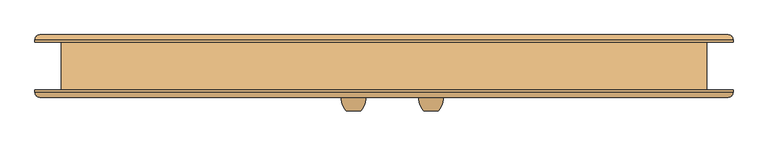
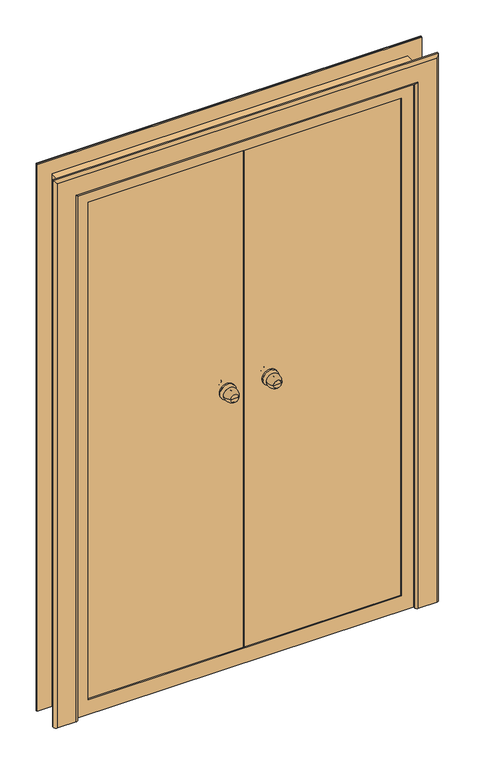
"""IFC4 building model written with IfcOpenShell, lengths in millimetres: door geometry, Наружная дверь 2-Навесная - Один проем наружу с порогом - 31173-2003 : ДСН ДКН М2 2100-1300 ГОСТ 31173-2003."""

from ifc_helpers import new_model, si_unit, point, frame, origin, place, context, project, spatial, polyline, circle_curve, ellipse_curve, trimmed, outline, extrude, faceted_brep, source, transform, mapped, element, save
from ifc_brep_helpers import plane_surface, cylinder_surface, revolved_surface, advanced_brep


def door_2465b851(model_context):
    return source(origin(), model_context, "Body", "SolidModel", [
        advanced_brep(
        [(113.0, -93.0, 1100.0), (83.0, -93.0, 1100.0), (98.0, -93.0, 1100.0), (123.0, -63.0, 1100.0), (73.0, -63.0, 1100.0), (116.0, -63.0, 1100.0), (80.0, -63.0, 1100.0), (108.0, -55.0, 1100.0), (88.0, -55.0, 1100.0), (108.0, -49.0, 1100.0), (88.0, -49.0, 1100.0), (68.0, -49.0, 1100.0), (128.0, -49.0, 1100.0), (68.0, -43.0, 1100.0), (128.0, -43.0, 1100.0)],
        [
            (0, 1, circle_curve(frame((98.0, -93.0, 1100.0), z_axis=(0.0, -1.0, 0.0), x_axis=(-1.0, 0.0, 0.0)), 15.0)),
            (1, 2),
            (2, 0),
            (1, 0, circle_curve(frame((98.0, -93.0, 1100.0), z_axis=(0.0, -1.0, 0.0), x_axis=(-1.0, 0.0, 0.0)), 15.0)),
            (0, 3, circle_curve(frame((88.3773735, -68.1257912, 1100.0), z_axis=(0.0, 0.0, 1.0), x_axis=(-1.0, 0.0, 0.0)), 35.0)),
            (3, 4, circle_curve(frame((98.0, -63.0, 1100.0), z_axis=(0.0, -1.0, 0.0), x_axis=(-1.0, 0.0, 0.0)), 25.0)),
            (4, 1, circle_curve(frame((107.6226265, -68.1257912, 1100.0), z_axis=(0.0, 0.0, 1.0), x_axis=(1.0, 0.0, 0.0)), 35.0)),
            (4, 3, circle_curve(frame((98.0, -63.0, 1100.0), z_axis=(0.0, -1.0, 0.0), x_axis=(-1.0, 0.0, 0.0)), 25.0)),
            (3, 5),
            (5, 6, circle_curve(frame((98.0, -63.0, 1100.0), z_axis=(0.0, -1.0, 0.0), x_axis=(-1.0, 0.0, 0.0)), 18.0)),
            (6, 4),
            (6, 5, circle_curve(frame((98.0, -63.0, 1100.0), z_axis=(0.0, -1.0, 0.0), x_axis=(-1.0, 0.0, 0.0)), 18.0)),
            (5, 7, circle_curve(frame((116.0, -55.0, 1100.0), z_axis=(0.0, 0.0, -1.0), x_axis=(-1.0, 0.0, 0.0)), 8.0)),
            (7, 8, circle_curve(frame((98.0, -55.0, 1100.0), z_axis=(0.0, -1.0, 0.0), x_axis=(-1.0, 0.0, 0.0)), 10.0)),
            (8, 6, circle_curve(frame((80.0, -55.0, 1100.0), z_axis=(0.0, 0.0, -1.0), x_axis=(1.0, 0.0, 0.0)), 8.0)),
            (8, 7, circle_curve(frame((98.0, -55.0, 1100.0), z_axis=(0.0, -1.0, 0.0), x_axis=(-1.0, 0.0, 0.0)), 10.0)),
            (7, 9),
            (9, 10, circle_curve(frame((98.0, -49.0, 1100.0), z_axis=(0.0, -1.0, 0.0), x_axis=(-1.0, 0.0, 0.0)), 10.0)),
            (10, 8),
            (10, 9, circle_curve(frame((98.0, -49.0, 1100.0), z_axis=(0.0, -1.0, 0.0), x_axis=(-1.0, 0.0, 0.0)), 10.0)),
            (11, 12, circle_curve(frame((98.0, -49.0, 1100.0), z_axis=(0.0, -1.0, 0.0), x_axis=(1.0, 0.0, 0.0)), 30.0)),
            (12, 11, circle_curve(frame((98.0, -49.0, 1100.0), z_axis=(0.0, -1.0, 0.0), x_axis=(1.0, 0.0, 0.0)), 30.0)),
            (13, 14, circle_curve(frame((98.0, -43.0, 1100.0), z_axis=(0.0, 1.0, 0.0), x_axis=(1.0, 0.0, 0.0)), 30.0)),
            (14, 13, circle_curve(frame((98.0, -43.0, 1100.0), z_axis=(0.0, 1.0, 0.0), x_axis=(1.0, 0.0, 0.0)), 30.0)),
            (11, 13),
            (14, 12),
        ],
        [
            plane_surface(frame((98.0, -93.0, 1100.0), z_axis=(0.0, -1.0, 0.0), x_axis=(-1.0, 0.0, 0.0))),
            revolved_surface(trimmed(ellipse_curve(frame((107.6226265, -68.1257912, 1100.0), z_axis=(0.0, 0.0, -1.0), x_axis=(1.0, 0.0, 0.0)), 35.0, 35.0), [point((83.0, -93.0, 1100.0))], [point((73.0, -63.0, 1100.0))], True, "CARTESIAN"), (98.0, -123.0, 1100.0), (0.0, 1.0, 0.0)),
            plane_surface(frame((98.0, -63.0, 1100.0), z_axis=(0.0, 1.0, 0.0), x_axis=(-1.0, 0.0, 0.0))),
            revolved_surface(trimmed(ellipse_curve(frame((80.0, -55.0, 1100.0), z_axis=(0.0, 0.0, 1.0), x_axis=(1.0, 0.0, 0.0)), 8.0, 8.0), [point((80.0, -63.0, 1100.0))], [point((88.0, -55.0, 1100.0))], True, "CARTESIAN"), (98.0, -123.0, 1100.0), (0.0, 1.0, 0.0)),
            cylinder_surface(frame((98.0, -123.0, 1100.0), z_axis=(0.0, 1.0, 0.0), x_axis=(-1.0, 0.0, 0.0)), 10.0),
            plane_surface(frame((128.0, -49.0, 1100.0), z_axis=(0.0, -1.0, 0.0), x_axis=(0.0, 0.0, 1.0))),
            plane_surface(frame((128.0, -43.0, 1100.0), z_axis=(0.0, 1.0, 0.0), x_axis=(0.0, 0.0, -1.0))),
            cylinder_surface(frame((98.0, -43.0, 1100.0), z_axis=(0.0, -1.0, 0.0), x_axis=(1.0, 0.0, 0.0)), 30.0),
        ],
        [
            (0, [[1, 2, 3]]),
            (0, [[-2, 4, -3]]),
            (1, [[-1, 5, 6, 7]]),
            (1, [[-4, -7, 8, -5]]),
            (2, [[-6, 9, 10, 11]]),
            (2, [[-8, -11, 12, -9]]),
            (3, [[-10, 13, 14, 15]]),
            (3, [[-12, -15, 16, -13]]),
            (4, [[-14, 17, 18, 19]]),
            (4, [[-16, -19, 20, -17]]),
            (5, [[21, 22], [-18, -20]]),
            (6, [[23, 24]]),
            (7, [[-21, 25, -24, 26]]),
            (7, [[-22, -26, -23, -25]]),
        ],
    ),
        advanced_brep(
        [(83.0, 47.0, 1100.0), (113.0, 47.0, 1100.0), (98.0, 47.0, 1100.0), (73.0, 17.0, 1100.0), (123.0, 17.0, 1100.0), (80.0, 17.0, 1100.0), (116.0, 17.0, 1100.0), (88.0, 9.0, 1100.0), (108.0, 9.0, 1100.0), (88.0, 3.0, 1100.0), (108.0, 3.0, 1100.0), (128.0, 3.0, 1100.0), (68.0, 3.0, 1100.0), (128.0, -3.0, 1100.0), (68.0, -3.0, 1100.0)],
        [
            (0, 1, circle_curve(frame((98.0, 47.0, 1100.0), z_axis=(0.0, 1.0, 0.0), x_axis=(1.0, 0.0, 0.0)), 15.0)),
            (1, 2),
            (2, 0),
            (1, 0, circle_curve(frame((98.0, 47.0, 1100.0), z_axis=(0.0, 1.0, 0.0), x_axis=(1.0, 0.0, 0.0)), 15.0)),
            (0, 3, circle_curve(frame((107.6226265, 22.1257912, 1100.0), z_axis=(0.0, 0.0, 1.0), x_axis=(1.0, 0.0, 0.0)), 35.0)),
            (3, 4, circle_curve(frame((98.0, 17.0, 1100.0), z_axis=(0.0, 1.0, 0.0), x_axis=(1.0, 0.0, 0.0)), 25.0)),
            (4, 1, circle_curve(frame((88.3773735, 22.1257912, 1100.0), z_axis=(0.0, 0.0, 1.0), x_axis=(-1.0, 0.0, 0.0)), 35.0)),
            (4, 3, circle_curve(frame((98.0, 17.0, 1100.0), z_axis=(0.0, 1.0, 0.0), x_axis=(1.0, 0.0, 0.0)), 25.0)),
            (3, 5),
            (5, 6, circle_curve(frame((98.0, 17.0, 1100.0), z_axis=(0.0, 1.0, 0.0), x_axis=(1.0, 0.0, 0.0)), 18.0)),
            (6, 4),
            (6, 5, circle_curve(frame((98.0, 17.0, 1100.0), z_axis=(0.0, 1.0, 0.0), x_axis=(1.0, 0.0, 0.0)), 18.0)),
            (5, 7, circle_curve(frame((80.0, 9.0, 1100.0), z_axis=(0.0, 0.0, -1.0), x_axis=(1.0, 0.0, 0.0)), 8.0)),
            (7, 8, circle_curve(frame((98.0, 9.0, 1100.0), z_axis=(0.0, 1.0, 0.0), x_axis=(1.0, 0.0, 0.0)), 10.0)),
            (8, 6, circle_curve(frame((116.0, 9.0, 1100.0), z_axis=(0.0, 0.0, -1.0), x_axis=(-1.0, 0.0, 0.0)), 8.0)),
            (8, 7, circle_curve(frame((98.0, 9.0, 1100.0), z_axis=(0.0, 1.0, 0.0), x_axis=(1.0, 0.0, 0.0)), 10.0)),
            (7, 9),
            (9, 10, circle_curve(frame((98.0, 3.0, 1100.0), z_axis=(0.0, 1.0, 0.0), x_axis=(1.0, 0.0, 0.0)), 10.0)),
            (10, 8),
            (10, 9, circle_curve(frame((98.0, 3.0, 1100.0), z_axis=(0.0, 1.0, 0.0), x_axis=(1.0, 0.0, 0.0)), 10.0)),
            (11, 12, circle_curve(frame((98.0, 3.0, 1100.0), z_axis=(0.0, 1.0, 0.0), x_axis=(-1.0, 0.0, 0.0)), 30.0)),
            (12, 11, circle_curve(frame((98.0, 3.0, 1100.0), z_axis=(0.0, 1.0, 0.0), x_axis=(-1.0, 0.0, 0.0)), 30.0)),
            (13, 14, circle_curve(frame((98.0, -3.0, 1100.0), z_axis=(0.0, -1.0, 0.0), x_axis=(-1.0, 0.0, 0.0)), 30.0)),
            (14, 13, circle_curve(frame((98.0, -3.0, 1100.0), z_axis=(0.0, -1.0, 0.0), x_axis=(-1.0, 0.0, 0.0)), 30.0)),
            (11, 13),
            (14, 12),
        ],
        [
            plane_surface(frame((98.0, 47.0, 1100.0), z_axis=(0.0, 1.0, 0.0), x_axis=(1.0, 0.0, 0.0))),
            revolved_surface(trimmed(ellipse_curve(frame((88.3773735, 22.1257912, 1100.0), z_axis=(0.0, 0.0, -1.0), x_axis=(-1.0, 0.0, 0.0)), 35.0, 35.0), [point((113.0, 47.0, 1100.0))], [point((123.0, 17.0, 1100.0))], True, "CARTESIAN"), (98.0, 77.0, 1100.0), (0.0, -1.0, 0.0)),
            plane_surface(frame((98.0, 17.0, 1100.0), z_axis=(0.0, -1.0, 0.0), x_axis=(1.0, 0.0, 0.0))),
            revolved_surface(trimmed(ellipse_curve(frame((116.0, 9.0, 1100.0), z_axis=(0.0, 0.0, 1.0), x_axis=(-1.0, 0.0, 0.0)), 8.0, 8.0), [point((116.0, 17.0, 1100.0))], [point((108.0, 9.0, 1100.0))], True, "CARTESIAN"), (98.0, 77.0, 1100.0), (0.0, -1.0, 0.0)),
            cylinder_surface(frame((98.0, 77.0, 1100.0), z_axis=(0.0, -1.0, 0.0), x_axis=(1.0, 0.0, 0.0)), 10.0),
            plane_surface(frame((68.0, 3.0, 1100.0), z_axis=(0.0, 1.0, 0.0), x_axis=(0.0, 0.0, 1.0))),
            plane_surface(frame((68.0, -3.0, 1100.0), z_axis=(0.0, -1.0, 0.0), x_axis=(0.0, 0.0, -1.0))),
            cylinder_surface(frame((98.0, -3.0, 1100.0), z_axis=(0.0, 1.0, 0.0), x_axis=(-1.0, 0.0, 0.0)), 30.0),
        ],
        [
            (0, [[1, 2, 3]]),
            (0, [[-2, 4, -3]]),
            (1, [[-1, 5, 6, 7]]),
            (1, [[-4, -7, 8, -5]]),
            (2, [[-6, 9, 10, 11]]),
            (2, [[-8, -11, 12, -9]]),
            (3, [[-10, 13, 14, 15]]),
            (3, [[-12, -15, 16, -13]]),
            (4, [[-14, 17, 18, 19]]),
            (4, [[-16, -19, 20, -17]]),
            (5, [[21, 22], [-18, -20]]),
            (6, [[23, 24]]),
            (7, [[-21, 25, -24, 26]]),
            (7, [[-22, -26, -23, -25]]),
        ],
    ),
        advanced_brep(
        [(-48.0, -93.0, 1100.0), (-78.0, -93.0, 1100.0), (-63.0, -93.0, 1100.0), (-38.0, -63.0, 1100.0), (-88.0, -63.0, 1100.0), (-45.0, -63.0, 1100.0), (-81.0, -63.0, 1100.0), (-53.0, -55.0, 1100.0), (-73.0, -55.0, 1100.0), (-53.0, -49.0, 1100.0), (-73.0, -49.0, 1100.0), (-93.0, -49.0, 1100.0), (-33.0, -49.0, 1100.0), (-93.0, -43.0, 1100.0), (-33.0, -43.0, 1100.0)],
        [
            (0, 1, circle_curve(frame((-63.0, -93.0, 1100.0), z_axis=(0.0, -1.0, 0.0), x_axis=(-1.0, 0.0, 0.0)), 15.0)),
            (1, 2),
            (2, 0),
            (1, 0, circle_curve(frame((-63.0, -93.0, 1100.0), z_axis=(0.0, -1.0, 0.0), x_axis=(-1.0, 0.0, 0.0)), 15.0)),
            (0, 3, circle_curve(frame((-72.6226265, -68.1257912, 1100.0), z_axis=(0.0, 0.0, 1.0), x_axis=(-1.0, 0.0, 0.0)), 35.0)),
            (3, 4, circle_curve(frame((-63.0, -63.0, 1100.0), z_axis=(0.0, -1.0, 0.0), x_axis=(-1.0, 0.0, 0.0)), 25.0)),
            (4, 1, circle_curve(frame((-53.3773735, -68.1257912, 1100.0), z_axis=(0.0, 0.0, 1.0), x_axis=(1.0, 0.0, 0.0)), 35.0)),
            (4, 3, circle_curve(frame((-63.0, -63.0, 1100.0), z_axis=(0.0, -1.0, 0.0), x_axis=(-1.0, 0.0, 0.0)), 25.0)),
            (3, 5),
            (5, 6, circle_curve(frame((-63.0, -63.0, 1100.0), z_axis=(0.0, -1.0, 0.0), x_axis=(-1.0, 0.0, 0.0)), 18.0)),
            (6, 4),
            (6, 5, circle_curve(frame((-63.0, -63.0, 1100.0), z_axis=(0.0, -1.0, 0.0), x_axis=(-1.0, 0.0, 0.0)), 18.0)),
            (5, 7, circle_curve(frame((-45.0, -55.0, 1100.0), z_axis=(0.0, 0.0, -1.0), x_axis=(-1.0, 0.0, 0.0)), 8.0)),
            (7, 8, circle_curve(frame((-63.0, -55.0, 1100.0), z_axis=(0.0, -1.0, 0.0), x_axis=(-1.0, 0.0, 0.0)), 10.0)),
            (8, 6, circle_curve(frame((-81.0, -55.0, 1100.0), z_axis=(0.0, 0.0, -1.0), x_axis=(1.0, 0.0, 0.0)), 8.0)),
            (8, 7, circle_curve(frame((-63.0, -55.0, 1100.0), z_axis=(0.0, -1.0, 0.0), x_axis=(-1.0, 0.0, 0.0)), 10.0)),
            (7, 9),
            (9, 10, circle_curve(frame((-63.0, -49.0, 1100.0), z_axis=(0.0, -1.0, 0.0), x_axis=(-1.0, 0.0, 0.0)), 10.0)),
            (10, 8),
            (10, 9, circle_curve(frame((-63.0, -49.0, 1100.0), z_axis=(0.0, -1.0, 0.0), x_axis=(-1.0, 0.0, 0.0)), 10.0)),
            (11, 12, circle_curve(frame((-63.0, -49.0, 1100.0), z_axis=(0.0, -1.0, 0.0), x_axis=(1.0, 0.0, 0.0)), 30.0)),
            (12, 11, circle_curve(frame((-63.0, -49.0, 1100.0), z_axis=(0.0, -1.0, 0.0), x_axis=(1.0, 0.0, 0.0)), 30.0)),
            (13, 14, circle_curve(frame((-63.0, -43.0, 1100.0), z_axis=(0.0, 1.0, 0.0), x_axis=(1.0, 0.0, 0.0)), 30.0)),
            (14, 13, circle_curve(frame((-63.0, -43.0, 1100.0), z_axis=(0.0, 1.0, 0.0), x_axis=(1.0, 0.0, 0.0)), 30.0)),
            (11, 13),
            (14, 12),
        ],
        [
            plane_surface(frame((-63.0, -93.0, 1100.0), z_axis=(0.0, -1.0, 0.0), x_axis=(-1.0, 0.0, 0.0))),
            revolved_surface(trimmed(ellipse_curve(frame((-53.3773735, -68.1257912, 1100.0), z_axis=(0.0, 0.0, -1.0), x_axis=(1.0, 0.0, 0.0)), 35.0, 35.0), [point((-78.0, -93.0, 1100.0))], [point((-88.0, -63.0, 1100.0))], True, "CARTESIAN"), (-63.0, -123.0, 1100.0), (0.0, 1.0, 0.0)),
            plane_surface(frame((-63.0, -63.0, 1100.0), z_axis=(0.0, 1.0, 0.0), x_axis=(-1.0, 0.0, 0.0))),
            revolved_surface(trimmed(ellipse_curve(frame((-81.0, -55.0, 1100.0), z_axis=(0.0, 0.0, 1.0), x_axis=(1.0, 0.0, 0.0)), 8.0, 8.0), [point((-81.0, -63.0, 1100.0))], [point((-73.0, -55.0, 1100.0))], True, "CARTESIAN"), (-63.0, -123.0, 1100.0), (0.0, 1.0, 0.0)),
            cylinder_surface(frame((-63.0, -123.0, 1100.0), z_axis=(0.0, 1.0, 0.0), x_axis=(-1.0, 0.0, 0.0)), 10.0),
            plane_surface(frame((-33.0, -49.0, 1100.0), z_axis=(0.0, -1.0, 0.0), x_axis=(0.0, 0.0, 1.0))),
            plane_surface(frame((-33.0, -43.0, 1100.0), z_axis=(0.0, 1.0, 0.0), x_axis=(0.0, 0.0, -1.0))),
            cylinder_surface(frame((-63.0, -43.0, 1100.0), z_axis=(0.0, -1.0, 0.0), x_axis=(1.0, 0.0, 0.0)), 30.0),
        ],
        [
            (0, [[1, 2, 3]]),
            (0, [[-2, 4, -3]]),
            (1, [[-1, 5, 6, 7]]),
            (1, [[-4, -7, 8, -5]]),
            (2, [[-6, 9, 10, 11]]),
            (2, [[-8, -11, 12, -9]]),
            (3, [[-10, 13, 14, 15]]),
            (3, [[-12, -15, 16, -13]]),
            (4, [[-14, 17, 18, 19]]),
            (4, [[-16, -19, 20, -17]]),
            (5, [[21, 22], [-18, -20]]),
            (6, [[23, 24]]),
            (7, [[-21, 25, -24, 26]]),
            (7, [[-22, -26, -23, -25]]),
        ],
    ),
        advanced_brep(
        [(-78.0, 47.0, 1100.0), (-48.0, 47.0, 1100.0), (-63.0, 47.0, 1100.0), (-88.0, 17.0, 1100.0), (-38.0, 17.0, 1100.0), (-81.0, 17.0, 1100.0), (-45.0, 17.0, 1100.0), (-73.0, 9.0, 1100.0), (-53.0, 9.0, 1100.0), (-73.0, 3.0, 1100.0), (-53.0, 3.0, 1100.0), (-33.0, 3.0, 1100.0), (-93.0, 3.0, 1100.0), (-33.0, -3.0, 1100.0), (-93.0, -3.0, 1100.0)],
        [
            (0, 1, circle_curve(frame((-63.0, 47.0, 1100.0), z_axis=(0.0, 1.0, 0.0), x_axis=(1.0, 0.0, 0.0)), 15.0)),
            (1, 2),
            (2, 0),
            (1, 0, circle_curve(frame((-63.0, 47.0, 1100.0), z_axis=(0.0, 1.0, 0.0), x_axis=(1.0, 0.0, 0.0)), 15.0)),
            (0, 3, circle_curve(frame((-53.3773735, 22.1257912, 1100.0), z_axis=(0.0, 0.0, 1.0), x_axis=(1.0, 0.0, 0.0)), 35.0)),
            (3, 4, circle_curve(frame((-63.0, 17.0, 1100.0), z_axis=(0.0, 1.0, 0.0), x_axis=(1.0, 0.0, 0.0)), 25.0)),
            (4, 1, circle_curve(frame((-72.6226265, 22.1257912, 1100.0), z_axis=(0.0, 0.0, 1.0), x_axis=(-1.0, 0.0, 0.0)), 35.0)),
            (4, 3, circle_curve(frame((-63.0, 17.0, 1100.0), z_axis=(0.0, 1.0, 0.0), x_axis=(1.0, 0.0, 0.0)), 25.0)),
            (3, 5),
            (5, 6, circle_curve(frame((-63.0, 17.0, 1100.0), z_axis=(0.0, 1.0, 0.0), x_axis=(1.0, 0.0, 0.0)), 18.0)),
            (6, 4),
            (6, 5, circle_curve(frame((-63.0, 17.0, 1100.0), z_axis=(0.0, 1.0, 0.0), x_axis=(1.0, 0.0, 0.0)), 18.0)),
            (5, 7, circle_curve(frame((-81.0, 9.0, 1100.0), z_axis=(0.0, 0.0, -1.0), x_axis=(1.0, 0.0, 0.0)), 8.0)),
            (7, 8, circle_curve(frame((-63.0, 9.0, 1100.0), z_axis=(0.0, 1.0, 0.0), x_axis=(1.0, 0.0, 0.0)), 10.0)),
            (8, 6, circle_curve(frame((-45.0, 9.0, 1100.0), z_axis=(0.0, 0.0, -1.0), x_axis=(-1.0, 0.0, 0.0)), 8.0)),
            (8, 7, circle_curve(frame((-63.0, 9.0, 1100.0), z_axis=(0.0, 1.0, 0.0), x_axis=(1.0, 0.0, 0.0)), 10.0)),
            (7, 9),
            (9, 10, circle_curve(frame((-63.0, 3.0, 1100.0), z_axis=(0.0, 1.0, 0.0), x_axis=(1.0, 0.0, 0.0)), 10.0)),
            (10, 8),
            (10, 9, circle_curve(frame((-63.0, 3.0, 1100.0), z_axis=(0.0, 1.0, 0.0), x_axis=(1.0, 0.0, 0.0)), 10.0)),
            (11, 12, circle_curve(frame((-63.0, 3.0, 1100.0), z_axis=(0.0, 1.0, 0.0), x_axis=(-1.0, 0.0, 0.0)), 30.0)),
            (12, 11, circle_curve(frame((-63.0, 3.0, 1100.0), z_axis=(0.0, 1.0, 0.0), x_axis=(-1.0, 0.0, 0.0)), 30.0)),
            (13, 14, circle_curve(frame((-63.0, -3.0, 1100.0), z_axis=(0.0, -1.0, 0.0), x_axis=(-1.0, 0.0, 0.0)), 30.0)),
            (14, 13, circle_curve(frame((-63.0, -3.0, 1100.0), z_axis=(0.0, -1.0, 0.0), x_axis=(-1.0, 0.0, 0.0)), 30.0)),
            (11, 13),
            (14, 12),
        ],
        [
            plane_surface(frame((-63.0, 47.0, 1100.0), z_axis=(0.0, 1.0, 0.0), x_axis=(1.0, 0.0, 0.0))),
            revolved_surface(trimmed(ellipse_curve(frame((-72.6226265, 22.1257912, 1100.0), z_axis=(0.0, 0.0, -1.0), x_axis=(-1.0, 0.0, 0.0)), 35.0, 35.0), [point((-48.0, 47.0, 1100.0))], [point((-38.0, 17.0, 1100.0))], True, "CARTESIAN"), (-63.0, 77.0, 1100.0), (0.0, -1.0, 0.0)),
            plane_surface(frame((-63.0, 17.0, 1100.0), z_axis=(0.0, -1.0, 0.0), x_axis=(1.0, 0.0, 0.0))),
            revolved_surface(trimmed(ellipse_curve(frame((-45.0, 9.0, 1100.0), z_axis=(0.0, 0.0, 1.0), x_axis=(-1.0, 0.0, 0.0)), 8.0, 8.0), [point((-45.0, 17.0, 1100.0))], [point((-53.0, 9.0, 1100.0))], True, "CARTESIAN"), (-63.0, 77.0, 1100.0), (0.0, -1.0, 0.0)),
            cylinder_surface(frame((-63.0, 77.0, 1100.0), z_axis=(0.0, -1.0, 0.0), x_axis=(1.0, 0.0, 0.0)), 10.0),
            plane_surface(frame((-93.0, 3.0, 1100.0), z_axis=(0.0, 1.0, 0.0), x_axis=(0.0, 0.0, 1.0))),
            plane_surface(frame((-93.0, -3.0, 1100.0), z_axis=(0.0, -1.0, 0.0), x_axis=(0.0, 0.0, -1.0))),
            cylinder_surface(frame((-63.0, -3.0, 1100.0), z_axis=(0.0, 1.0, 0.0), x_axis=(-1.0, 0.0, 0.0)), 30.0),
        ],
        [
            (0, [[1, 2, 3]]),
            (0, [[-2, 4, -3]]),
            (1, [[-1, 5, 6, 7]]),
            (1, [[-4, -7, 8, -5]]),
            (2, [[-6, 9, 10, 11]]),
            (2, [[-8, -11, 12, -9]]),
            (3, [[-10, 13, 14, 15]]),
            (3, [[-12, -15, 16, -13]]),
            (4, [[-14, 17, 18, 19]]),
            (4, [[-16, -19, 20, -17]]),
            (5, [[21, 22], [-18, -20]]),
            (6, [[23, 24]]),
            (7, [[-21, 25, -24, 26]]),
            (7, [[-22, -26, -23, -25]]),
        ],
    ),
        faceted_brep([(38.0, -3.0, 25.0), (625.0, -3.0, 25.0), (625.0, -8.0, 25.0), (38.0, -8.0, 25.0), (38.0, -3.0, 2075.0), (625.0, -3.0, 2075.0), (625.0, -8.0, 2075.0), (38.0, -8.0, 2075.0), (38.0, -8.0, 2055.0), (605.0, -8.0, 2055.0), (605.0, -8.0, 45.0), (38.0, -8.0, 45.0), (38.0, -24.0, 45.0), (38.0, -24.0, 2055.0), (605.0, -43.0, 2055.0), (605.0, -43.0, 45.0), (3.0, -43.0, 45.0), (3.0, -24.0, 45.0), (3.0, -43.0, 2055.0), (3.0, -24.0, 2055.0)], [[[0, 1, 2, 3]], [[4, 5, 1, 0]], [[5, 6, 2, 1]], [[6, 7, 8, 9, 10, 11, 3, 2]], [[4, 0, 3, 11, 12, 13, 8, 7]], [[9, 14, 15, 10]], [[11, 10, 15, 16, 17, 12]], [[14, 18, 16, 15]], [[18, 19, 17, 16]], [[19, 13, 12, 17]], [[9, 8, 13, 19, 18, 14]], [[6, 5, 4, 7]]]),
        faceted_brep([(32.0, -8.0, 25.0), (-625.0, -8.0, 25.0), (-625.0, -3.0, 25.0), (32.0, -3.0, 25.0), (32.0, -8.0, 45.0), (-605.0, -8.0, 45.0), (-605.0, -8.0, 2055.0), (32.0, -8.0, 2055.0), (32.0, -8.0, 2075.0), (-625.0, -8.0, 2075.0), (-625.0, -3.0, 2075.0), (32.0, -3.0, 2075.0), (32.0, -18.0, 2055.0), (32.0, -18.0, 45.0), (-3.0, -18.0, 45.0), (-3.0, -43.0, 45.0), (-605.0, -43.0, 45.0), (-605.0, -43.0, 2055.0), (-3.0, -43.0, 2055.0), (-3.0, -18.0, 2055.0)], [[[0, 1, 2, 3]], [[0, 4, 5, 6, 7, 8, 9, 1]], [[1, 9, 10, 2]], [[10, 11, 3, 2]], [[3, 11, 8, 7, 12, 13, 4, 0]], [[5, 4, 13, 14, 15, 16]], [[17, 6, 5, 16]], [[18, 17, 16, 15]], [[19, 18, 15, 14]], [[12, 19, 14, 13]], [[11, 10, 9, 8]], [[7, 6, 17, 18, 19, 12]]]),
        extrude(outline(polyline([(0.0, 635.0), (0.0, 650.0), (2100.0, 650.0), (2100.0, -650.0), (0.0, -650.0), (0.0, -635.0), (2085.0, -635.0), (2085.0, 635.0), (0.0, 635.0)])), frame((0.0, -10.0, 0.0), z_axis=(0.0, 1.0, 0.0), x_axis=(0.0, 0.0, 1.0)), (0.0, 0.0, 1.0), 60.0),
        faceted_brep([(650.0, -10.0, 0.0), (650.0, -50.0, 0.0), (-650.0, -50.0, 0.0), (-650.0, -10.0, 0.0), (-650.0, -50.0, 2100.0), (-650.0, -10.0, 2100.0), (650.0, -50.0, 2100.0), (-590.0, -50.0, 2040.0), (590.0, -50.0, 2040.0), (590.0, -50.0, 60.0), (-590.0, -50.0, 60.0), (650.0, -10.0, 2100.0), (-610.0, -10.0, 40.0), (610.0, -10.0, 40.0), (610.0, -10.0, 2060.0), (-610.0, -10.0, 2060.0), (610.0, -45.0, 40.0), (-610.0, -45.0, 40.0), (-610.0, -45.0, 2060.0), (610.0, -45.0, 2060.0), (-590.0, -45.0, 60.0), (590.0, -45.0, 60.0), (590.0, -45.0, 2040.0), (-590.0, -45.0, 2040.0)], [[[0, 1, 2, 3]], [[3, 2, 4, 5]], [[2, 1, 6, 4], [7, 8, 9, 10]], [[5, 11, 0, 3], [12, 13, 14, 15]], [[16, 13, 12, 17]], [[17, 12, 15, 18]], [[18, 19, 16, 17], [20, 21, 22, 23]], [[9, 21, 20, 10]], [[10, 20, 23, 7]], [[11, 6, 1, 0]], [[19, 14, 13, 16]], [[8, 22, 21, 9]], [[5, 4, 6, 11]], [[18, 15, 14, 19]], [[7, 23, 22, 8]]]),
        advanced_brep(
        [(-725.0, -50.0, 0.0), (-635.0, -50.0, 0.0), (-635.0, -55.0, 0.0), (-645.0, -65.0, 0.0), (-715.0, -65.0, 0.0), (-725.0, -55.0, 0.0), (-725.0, -50.0, 2175.0), (725.0, -50.0, 2175.0), (725.0, -50.0, 0.0), (635.0, -50.0, 0.0), (635.0, -50.0, 2085.0), (-635.0, -50.0, 2085.0), (-635.0, -55.0, 2085.0), (-645.0, -65.0, 2095.0), (645.0, -65.0, 2095.0), (645.0, -65.0, 0.0), (715.0, -65.0, 0.0), (715.0, -65.0, 2165.0), (-715.0, -65.0, 2165.0), (-725.0, -55.0, 2175.0), (725.0, -55.0, 2175.0), (725.0, -55.0, 0.0), (635.0, -55.0, 0.0), (635.0, -55.0, 2085.0)],
        [
            (0, 1),
            (1, 2),
            (2, 3, circle_curve(frame((-645.0, -55.0, 0.0), z_axis=(0.0, 0.0, -1.0), x_axis=(-1.0, 0.0, 0.0)), 10.0)),
            (3, 4),
            (4, 5, circle_curve(frame((-715.0, -55.0, 0.0), z_axis=(0.0, 0.0, -1.0), x_axis=(-1.0, 0.0, 0.0)), 10.0)),
            (5, 0),
            (0, 6),
            (6, 7),
            (7, 8),
            (8, 9),
            (9, 10),
            (10, 11),
            (11, 1),
            (11, 12),
            (12, 2),
            (12, 13, ellipse_curve(frame((-645.0, -55.0, 2095.0), z_axis=(-0.7071067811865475, 0.0, -0.7071067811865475), x_axis=(0.7071067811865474, 0.0, -0.7071067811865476)), 14.1421356, 10.0)),
            (13, 3),
            (13, 14),
            (14, 15),
            (15, 16),
            (16, 17),
            (17, 18),
            (18, 4),
            (18, 19, ellipse_curve(frame((-715.0, -55.0, 2165.0), z_axis=(-0.7071067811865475, 0.0, -0.7071067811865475), x_axis=(0.7071067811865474, 0.0, -0.7071067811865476)), 14.1421356, 10.0)),
            (19, 5),
            (19, 6),
            (7, 20),
            (20, 21),
            (21, 8),
            (21, 16, circle_curve(frame((715.0, -55.0, 0.0), z_axis=(0.0, 0.0, -1.0), x_axis=(1.0, 0.0, 0.0)), 10.0)),
            (15, 22, circle_curve(frame((645.0, -55.0, 0.0), z_axis=(0.0, 0.0, -1.0), x_axis=(1.0, 0.0, 0.0)), 10.0)),
            (22, 9),
            (23, 10),
            (22, 23),
            (14, 23, ellipse_curve(frame((645.0, -55.0, 2095.0), z_axis=(0.7071067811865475, 0.0, -0.7071067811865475), x_axis=(0.7071067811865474, 0.0, 0.7071067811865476)), 14.1421356, 10.0)),
            (20, 17, ellipse_curve(frame((715.0, -55.0, 2165.0), z_axis=(0.7071067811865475, 0.0, -0.7071067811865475), x_axis=(0.7071067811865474, 0.0, 0.7071067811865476)), 14.1421356, 10.0)),
            (23, 12),
            (20, 19),
        ],
        [
            plane_surface(frame((-670.0, -50.0, 0.0), z_axis=(0.0, 0.0, -1.0), x_axis=(0.0, -1.0, 0.0))),
            plane_surface(frame((-725.0, -50.0, 0.0), z_axis=(0.0, 1.0, 0.0), x_axis=(0.0, 0.0, 1.0))),
            plane_surface(frame((-635.0, -50.0, 0.0), z_axis=(1.0, 0.0, 0.0), x_axis=(0.0, 0.0, 1.0))),
            cylinder_surface(frame((-645.0, -55.0, 0.0), z_axis=(0.0, 0.0, -1.0), x_axis=(-1.0, 0.0, 0.0)), 10.0),
            plane_surface(frame((-645.0, -65.0, 0.0), z_axis=(0.0, -1.0, 0.0), x_axis=(0.0, 0.0, 1.0))),
            cylinder_surface(frame((-715.0, -55.0, 0.0), z_axis=(0.0, 0.0, -1.0), x_axis=(-1.0, 0.0, 0.0)), 10.0),
            plane_surface(frame((-725.0, -55.0, 0.0), z_axis=(-1.0, 0.0, 0.0), x_axis=(0.0, 0.0, 1.0))),
            plane_surface(frame((725.0, -55.0, 2175.0), z_axis=(1.0, 0.0, 0.0), x_axis=(0.0, 0.0, -1.0))),
            plane_surface(frame((670.0, -50.0, 0.0), z_axis=(0.0, 0.0, -1.0), x_axis=(0.0, -1.0, 0.0))),
            plane_surface(frame((635.0, -50.0, 2085.0), z_axis=(-1.0, 0.0, 0.0), x_axis=(0.0, 0.0, -1.0))),
            cylinder_surface(frame((645.0, -55.0, 2120.0), z_axis=(0.0, 0.0, 1.0), x_axis=(1.0, 0.0, 0.0)), 10.0),
            cylinder_surface(frame((715.0, -55.0, 2120.0), z_axis=(0.0, 0.0, 1.0), x_axis=(1.0, 0.0, 0.0)), 10.0),
            plane_surface(frame((-635.0, -50.0, 2085.0), z_axis=(0.0, 0.0, -1.0), x_axis=(1.0, 0.0, 0.0))),
            cylinder_surface(frame((-670.0, -55.0, 2095.0), z_axis=(-1.0, 0.0, 0.0), x_axis=(0.0, 0.0, 1.0)), 10.0),
            cylinder_surface(frame((-670.0, -55.0, 2165.0), z_axis=(-1.0, 0.0, 0.0), x_axis=(0.0, 0.0, 1.0)), 10.0),
            plane_surface(frame((-725.0, -55.0, 2175.0), z_axis=(0.0, 0.0, 1.0), x_axis=(1.0, 0.0, 0.0))),
        ],
        [
            (0, [[1, 2, 3, 4, 5, 6]]),
            (1, [[-1, 7, 8, 9, 10, 11, 12, 13]]),
            (2, [[-2, -13, 14, 15]]),
            (3, [[-3, -15, 16, 17]]),
            (4, [[-4, -17, 18, 19, 20, 21, 22, 23]]),
            (5, [[-5, -23, 24, 25]]),
            (6, [[-6, -25, 26, -7]]),
            (7, [[27, 28, 29, -9]]),
            (8, [[-29, 30, -20, 31, 32, -10]]),
            (9, [[33, -11, -32, 34]]),
            (10, [[35, -34, -31, -19]]),
            (11, [[36, -21, -30, -28]]),
            (12, [[-14, -12, -33, 37]]),
            (13, [[-16, -37, -35, -18]]),
            (14, [[-24, -22, -36, 38]]),
            (15, [[-26, -38, -27, -8]]),
        ],
    ),
        advanced_brep(
        [(725.0, 50.0, 0.0), (635.0, 50.0, 0.0), (635.0, 55.0, 0.0), (645.0, 65.0, 0.0), (715.0, 65.0, 0.0), (725.0, 55.0, 0.0), (725.0, 50.0, 2175.0), (-725.0, 50.0, 2175.0), (-725.0, 50.0, 0.0), (-635.0, 50.0, 0.0), (-635.0, 50.0, 2085.0), (635.0, 50.0, 2085.0), (635.0, 55.0, 2085.0), (645.0, 65.0, 2095.0), (-645.0, 65.0, 2095.0), (-645.0, 65.0, 0.0), (-715.0, 65.0, 0.0), (-715.0, 65.0, 2165.0), (715.0, 65.0, 2165.0), (725.0, 55.0, 2175.0), (-725.0, 55.0, 2175.0), (-725.0, 55.0, 0.0), (-635.0, 55.0, 0.0), (-635.0, 55.0, 2085.0)],
        [
            (0, 1),
            (1, 2),
            (2, 3, circle_curve(frame((645.0, 55.0, 0.0), z_axis=(0.0, 0.0, -1.0), x_axis=(1.0, 0.0, 0.0)), 10.0)),
            (3, 4),
            (4, 5, circle_curve(frame((715.0, 55.0, 0.0), z_axis=(0.0, 0.0, -1.0), x_axis=(1.0, 0.0, 0.0)), 10.0)),
            (5, 0),
            (0, 6),
            (6, 7),
            (7, 8),
            (8, 9),
            (9, 10),
            (10, 11),
            (11, 1),
            (11, 12),
            (12, 2),
            (12, 13, ellipse_curve(frame((645.0, 55.0, 2095.0), z_axis=(0.7071067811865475, 0.0, -0.7071067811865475), x_axis=(-0.7071067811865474, 0.0, -0.7071067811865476)), 14.1421356, 10.0)),
            (13, 3),
            (13, 14),
            (14, 15),
            (15, 16),
            (16, 17),
            (17, 18),
            (18, 4),
            (18, 19, ellipse_curve(frame((715.0, 55.0, 2165.0), z_axis=(0.7071067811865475, 0.0, -0.7071067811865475), x_axis=(-0.7071067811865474, 0.0, -0.7071067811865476)), 14.1421356, 10.0)),
            (19, 5),
            (19, 6),
            (7, 20),
            (20, 21),
            (21, 8),
            (21, 16, circle_curve(frame((-715.0, 55.0, 0.0), z_axis=(0.0, 0.0, -1.0), x_axis=(-1.0, 0.0, 0.0)), 10.0)),
            (15, 22, circle_curve(frame((-645.0, 55.0, 0.0), z_axis=(0.0, 0.0, -1.0), x_axis=(-1.0, 0.0, 0.0)), 10.0)),
            (22, 9),
            (23, 10),
            (22, 23),
            (14, 23, ellipse_curve(frame((-645.0, 55.0, 2095.0), z_axis=(-0.7071067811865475, 0.0, -0.7071067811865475), x_axis=(-0.7071067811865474, 0.0, 0.7071067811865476)), 14.1421356, 10.0)),
            (20, 17, ellipse_curve(frame((-715.0, 55.0, 2165.0), z_axis=(-0.7071067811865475, 0.0, -0.7071067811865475), x_axis=(-0.7071067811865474, 0.0, 0.7071067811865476)), 14.1421356, 10.0)),
            (23, 12),
            (20, 19),
        ],
        [
            plane_surface(frame((670.0, 50.0, 0.0), z_axis=(0.0, 0.0, -1.0), x_axis=(0.0, -1.0, 0.0))),
            plane_surface(frame((725.0, 50.0, 0.0), z_axis=(0.0, -1.0, 0.0), x_axis=(0.0, 0.0, 1.0))),
            plane_surface(frame((635.0, 50.0, 0.0), z_axis=(-1.0, 0.0, 0.0), x_axis=(0.0, 0.0, 1.0))),
            cylinder_surface(frame((645.0, 55.0, 0.0), z_axis=(0.0, 0.0, -1.0), x_axis=(1.0, 0.0, 0.0)), 10.0),
            plane_surface(frame((645.0, 65.0, 0.0), z_axis=(0.0, 1.0, 0.0), x_axis=(0.0, 0.0, 1.0))),
            cylinder_surface(frame((715.0, 55.0, 0.0), z_axis=(0.0, 0.0, -1.0), x_axis=(1.0, 0.0, 0.0)), 10.0),
            plane_surface(frame((725.0, 55.0, 0.0), z_axis=(1.0, 0.0, 0.0), x_axis=(0.0, 0.0, 1.0))),
            plane_surface(frame((-725.0, 55.0, 2175.0), z_axis=(-1.0, 0.0, 0.0), x_axis=(0.0, 0.0, -1.0))),
            plane_surface(frame((-670.0, 50.0, 0.0), z_axis=(0.0, 0.0, -1.0), x_axis=(0.0, -1.0, 0.0))),
            plane_surface(frame((-635.0, 50.0, 2085.0), z_axis=(1.0, 0.0, 0.0), x_axis=(0.0, 0.0, -1.0))),
            cylinder_surface(frame((-645.0, 55.0, 2120.0), z_axis=(0.0, 0.0, 1.0), x_axis=(-1.0, 0.0, 0.0)), 10.0),
            cylinder_surface(frame((-715.0, 55.0, 2120.0), z_axis=(0.0, 0.0, 1.0), x_axis=(-1.0, 0.0, 0.0)), 10.0),
            plane_surface(frame((635.0, 50.0, 2085.0), z_axis=(0.0, 0.0, -1.0), x_axis=(-1.0, 0.0, 0.0))),
            cylinder_surface(frame((670.0, 55.0, 2095.0), z_axis=(1.0, 0.0, 0.0), x_axis=(0.0, 0.0, 1.0)), 10.0),
            cylinder_surface(frame((670.0, 55.0, 2165.0), z_axis=(1.0, 0.0, 0.0), x_axis=(0.0, 0.0, 1.0)), 10.0),
            plane_surface(frame((725.0, 55.0, 2175.0), z_axis=(0.0, 0.0, 1.0), x_axis=(-1.0, 0.0, 0.0))),
        ],
        [
            (0, [[1, 2, 3, 4, 5, 6]]),
            (1, [[-1, 7, 8, 9, 10, 11, 12, 13]]),
            (2, [[-2, -13, 14, 15]]),
            (3, [[-3, -15, 16, 17]]),
            (4, [[-4, -17, 18, 19, 20, 21, 22, 23]]),
            (5, [[-5, -23, 24, 25]]),
            (6, [[-6, -25, 26, -7]]),
            (7, [[27, 28, 29, -9]]),
            (8, [[-29, 30, -20, 31, 32, -10]]),
            (9, [[33, -11, -32, 34]]),
            (10, [[35, -34, -31, -19]]),
            (11, [[36, -21, -30, -28]]),
            (12, [[-14, -12, -33, 37]]),
            (13, [[-16, -37, -35, -18]]),
            (14, [[-24, -22, -36, 38]]),
            (15, [[-26, -38, -27, -8]]),
        ],
    ),
        extrude(outline(polyline([(0.0, 650.0), (0.0, 670.0), (2120.0, 670.0), (2120.0, -670.0), (0.0, -670.0), (0.0, -650.0), (2100.0, -650.0), (2100.0, 650.0), (0.0, 650.0)])), frame((0.0, -50.0, 0.0), z_axis=(0.0, 1.0, 0.0), x_axis=(0.0, 0.0, 1.0)), (0.0, 0.0, 1.0), 100.0),
    ])


if __name__ == "__main__":
    model = new_model("IFC4")
    model_context = context("Model", 3, world=origin())
    ifc_project = project(units=[si_unit("LENGTHUNIT", "METRE", prefix="MILLI")], contexts=[model_context])
    site = spatial("IfcSite", under=ifc_project)
    building = spatial("IfcBuilding", under=site)
    placement = place(None, origin())
    door_shape = door_2465b851(model_context)
    element("IfcDoor", 1, ObjectType="Наружная дверь 2-Навесная - Один проем наружу с порогом - 31173-2003 : ДСН ДКН М2 2100-1300 ГОСТ 31173-2003", at=placement, inside=building, context=model_context, shape_type="MappedRepresentation", body=[
        mapped(door_shape, transform((0.0, 0.0, 0.0), x_axis=(1.0, 0.0, 0.0), y_axis=(0.0, 1.0, 0.0), z_axis=(0.0, 0.0, 1.0))),
    ])
    save(model, "model.ifc")
